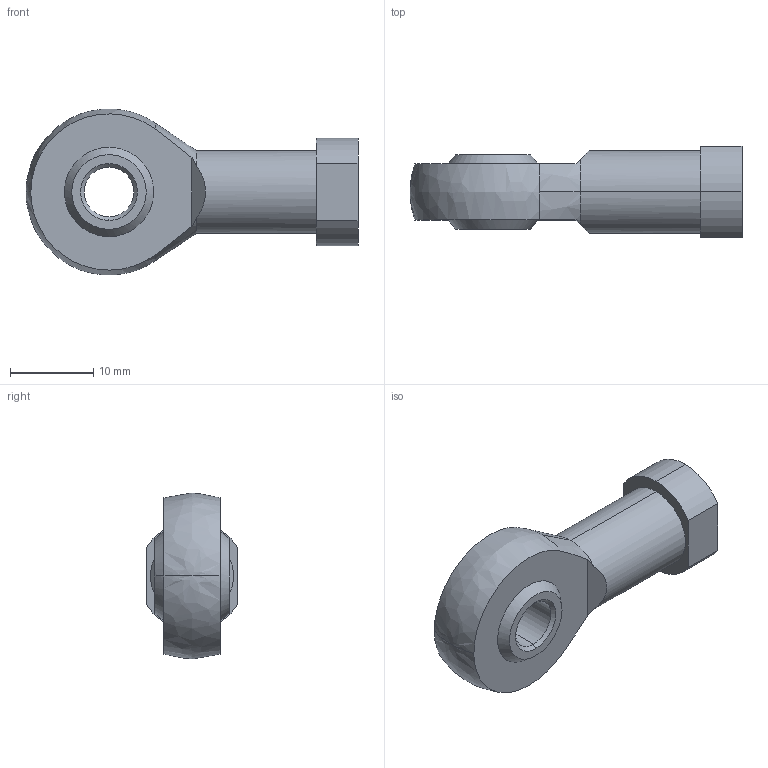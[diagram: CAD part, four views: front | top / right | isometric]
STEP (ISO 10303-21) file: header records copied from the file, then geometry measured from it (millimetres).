
FILE_DESCRIPTION (( 'STEP AP214' ), '1' );
FILE_NAME ('14.STK06.STEP', '2017-10-28T13:11:39', ( '' ), ( '' ), 'SwSTEP 2.0', 'SolidWorks 2016', '' );
FILE_SCHEMA (( 'AUTOMOTIVE_DESIGN' ));
Length unit declared in the file: millimetre
Products named in the file (1): 14.STK06
Bounding box: 40 x 11 x 19.99 mm (x, y, z)
Volume: 3511.4 mm3; surface area: 2165.1 mm2
Topology: 1 solids, 1 shells, 35 faces, 85 edges, 53 vertices
Faces by surface type: cone 11, plane 10, cylinder 9, bspline 5
Entity records: 1489 total; most frequent: CARTESIAN_POINT 687, ORIENTED_EDGE 162, DIRECTION 154, EDGE_CURVE 81, AXIS2_PLACEMENT_3D 64, VERTEX_POINT 53, EDGE_LOOP 42, ADVANCED_FACE 35
